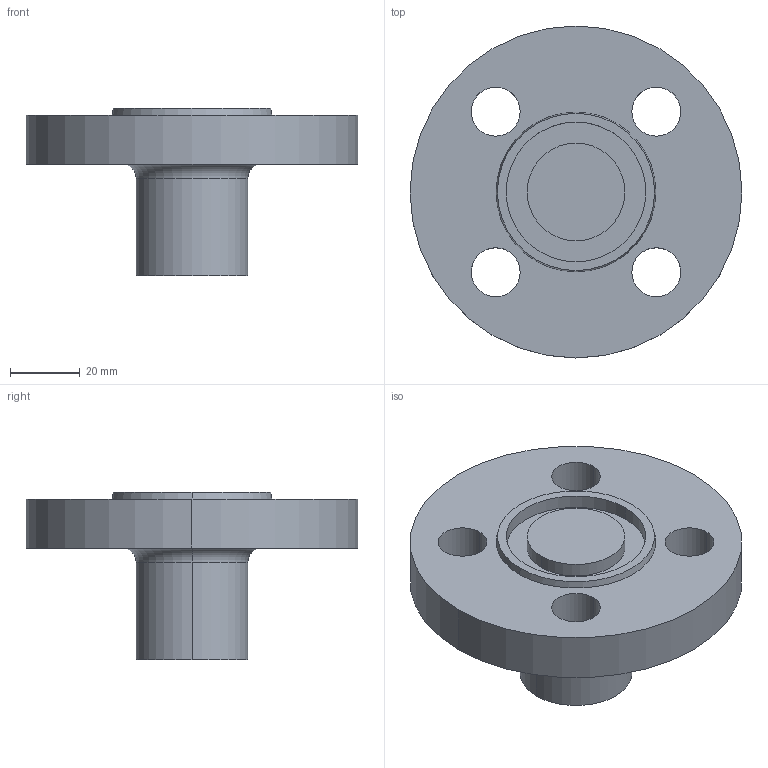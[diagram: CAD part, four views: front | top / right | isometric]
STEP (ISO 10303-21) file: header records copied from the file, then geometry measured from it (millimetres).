
FILE_DESCRIPTION (( 'STEP AP214' ), '1' );
FILE_NAME ('PN40 DN15 Type 21(i) - Type D Face.STEP', '2018-12-29T14:29:02', ( '' ), ( '' ), 'SwSTEP 2.0', 'SolidWorks 2019', '' );
FILE_SCHEMA (( 'AUTOMOTIVE_DESIGN' ));
Length unit declared in the file: millimetre
Products named in the file (1): PN40 DN15 Type 21(i) - Type D Face
Bounding box: 95 x 95 x 48 mm (x, y, z)
Volume: 117382.4 mm3; surface area: 23731.4 mm2
Topology: 1 solids, 1 shells, 26 faces, 58 edges, 38 vertices
Faces by surface type: cylinder 16, plane 6, torus 2, cone 2
Entity records: 796 total; most frequent: DIRECTION 152, CARTESIAN_POINT 123, ORIENTED_EDGE 116, AXIS2_PLACEMENT_3D 67, EDGE_CURVE 58, CIRCLE 40, VERTEX_POINT 38, EDGE_LOOP 38
